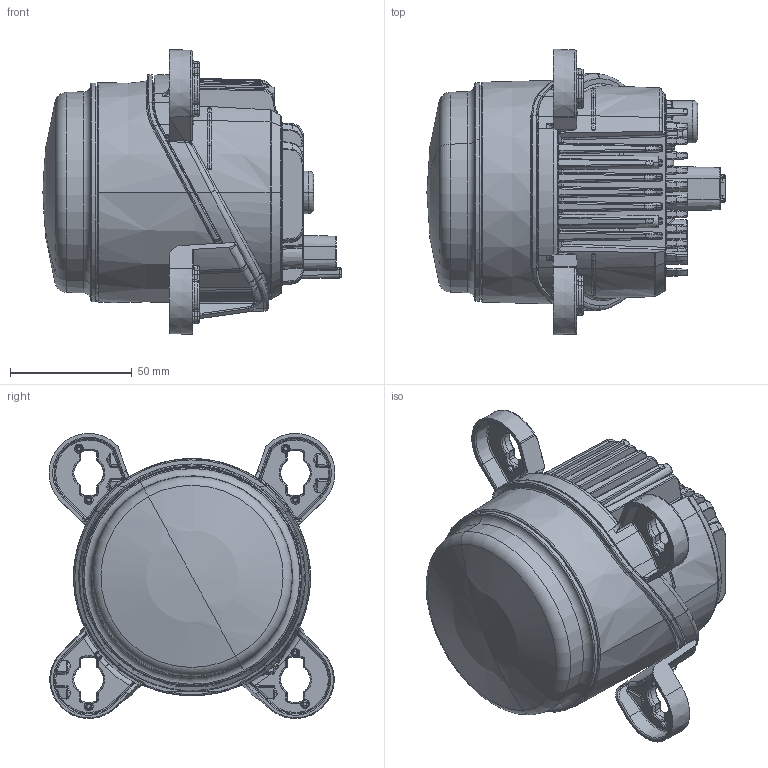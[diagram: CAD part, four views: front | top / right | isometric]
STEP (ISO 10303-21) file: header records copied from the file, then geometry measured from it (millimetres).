
FILE_DESCRIPTION(('CATIA V5 STEP Exchange','CAx-IF Rec.Pracs.--- Model Styling and Organization---1.5--- 2016-08-15','CAx-IF Rec.Pracs.---Supplemental Geometry---1.0---2011-11-01','CAx-IF Rec.Pracs.--- Composite Materials ---1.1---2010-07-15'),'2;1');
FILE_NAME('E:\tmp\ddx\2011204\3D_data_LED_low_beam_headlamp_R80_1B0 015 050-00.stp','2022-01-18T07:35:40+00:00',('none'),('none'),'CATIA Version 5-6 Release 2020 SP3 HF9','CATIA V5 STEP AP214 Edition 3 v2','none');
FILE_SCHEMA(('AUTOMOTIVE_DESIGN { 1 0 10303 214 3 1 1 1 }'));
Length unit declared in the file: millimetre
Products named in the file (1): 10002696316_D10_001
Bounding box: 122.66 x 117.54 x 117.23 mm (x, y, z)
Volume: 616646.9 mm3; surface area: 81976.2 mm2
Topology: 2 solids, 9 shells, 2948 faces, 7128 edges, 3990 vertices
Faces by surface type: bspline 1432, cylinder 521, plane 374, torus 257, cone 180, sphere 156, extrusion 28
Entity records: 153092 total; most frequent: CARTESIAN_POINT 101042, ORIENTED_EDGE 13830, EDGE_CURVE 6915, DIRECTION 4981, B_SPLINE_CURVE_WITH_KNOTS 4532, VERTEX_POINT 3990, EDGE_LOOP 2977, ADVANCED_FACE 2948
